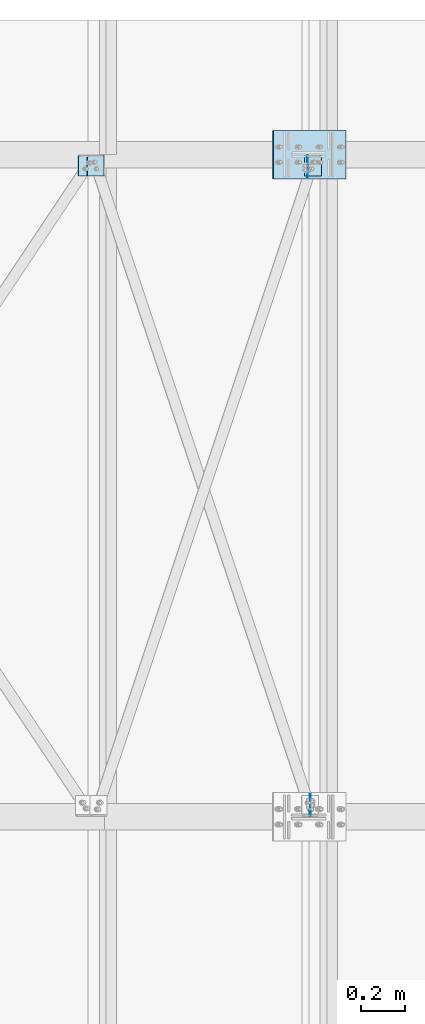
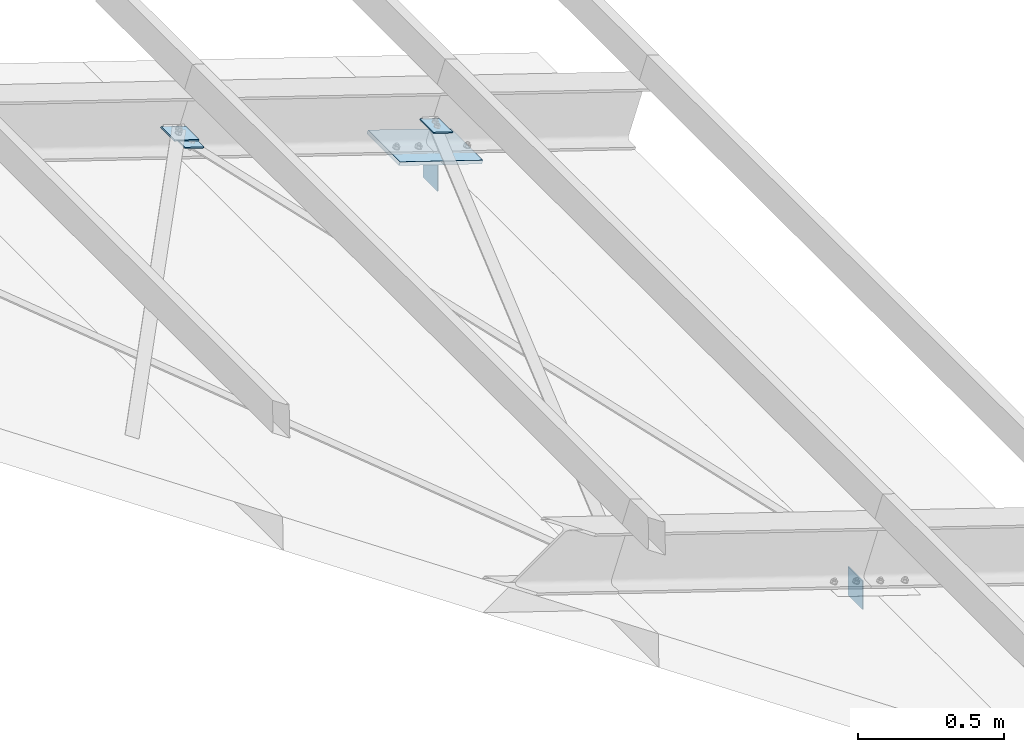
# One storey, part 9 of 53: 6 plates.
"""IFC4 building model written with IfcOpenShell, lengths in metres."""

from ifc_helpers import new_model, si_unit, frame, origin_with_axes, place, context, project, spatial, polyline, outline, extrude, type_object, element, save


model = new_model("IFC4")

# Units and contexts
model_context = context("Model", 3, precision=1e-05, world=origin_with_axes())
ifc_project = project(units=[si_unit("LENGTHUNIT", "METRE"), si_unit("AREAUNIT", "SQUARE_METRE"), si_unit("VOLUMEUNIT", "CUBIC_METRE"), si_unit("MASSUNIT", "GRAM", prefix="KILO"), si_unit("TIMEUNIT", "SECOND"), si_unit("PLANEANGLEUNIT", "RADIAN"), si_unit("SOLIDANGLEUNIT", "STERADIAN"), si_unit("THERMODYNAMICTEMPERATUREUNIT", "DEGREE_CELSIUS")], contexts=[model_context])

# Site, building, storey
placement_1 = place(None, origin_with_axes())
site = spatial("IfcSite", under=ifc_project, at=placement_1, Name="Italia", CompositionType="ELEMENT")
building = spatial("IfcBuilding", under=site, at=placement_1, Name="Capannone", CompositionType="ELEMENT")
storey_placement = place(None, frame((0.0, 0.0, 5.550000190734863), z_axis=(0.0, 0.0, 1.0), x_axis=(1.0, 0.0, 0.0)))
storey = spatial("IfcBuildingStorey", under=building, at=storey_placement, Name="Storey 1", CompositionType="ELEMENT", Elevation=5.550000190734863)

# Plates
plate_type_1 = type_object("IfcPlateType", Name="Collegamento -1058_-1088", PredefinedType="SHEET")
placement_2 = place(placement_1, origin_with_axes())
plate_1_placement = place(placement_2, origin_with_axes())
element("IfcPlate", 1, at=plate_1_placement, inside=storey, type_object=plate_type_1, Name="Collegamento -1058_-1088", context=model_context, shape_type="SweptSolid", body=[
    extrude(outline(polyline([(0.0, 0.0), (0.0940008, 0.0), (0.0940027, -0.102003), (2.86102e-06, -0.102004), (0.0, 0.0)])), frame((12.9546, 14.9029, 5.99085), z_axis=(0.312391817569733, 0.0, 0.949953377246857), x_axis=(0.0, 1.0, 0.0)), (0.0, 0.0, 1.0), 0.00500051),
])
plate_type_2 = type_object("IfcPlateType", Name="Collegamento -1058_0110", PredefinedType="SHEET")
plate_2_placement = place(placement_2, origin_with_axes())
element("IfcPlate", 2, at=plate_2_placement, inside=storey, type_object=plate_type_2, Name="Collegamento -1058_0110", context=model_context, shape_type="SweptSolid", body=[
    extrude(outline(polyline([(0.0, 0.0), (-0.0939989, -9.53674e-07), (-0.0939999, -0.0800009), (9.53674e-07, -0.0800028), (0.0, 0.0)])), frame((12.9974, 14.9029, 5.95048), z_axis=(-0.31184709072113, 0.0, -0.950132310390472), x_axis=(0.0, -1.0, 0.0)), (0.0, 0.0, 1.0), 0.00500007),
])
plate_type_3 = type_object("IfcPlateType", Name="Collegamenti 0102_0002 0104_0004 0106_0006 0108_0008 0110_0010 0112_0012", PredefinedType="SHEET")
plate_3_placement = place(placement_2, origin_with_axes())
element("IfcPlate", 3, at=plate_3_placement, inside=storey, type_object=plate_type_3, Name="Collegamenti 0102_0002 0104_0004 0106_0006 0108_0008 0110_0010 0112_0012", context=model_context, shape_type="SweptSolid", body=[
    extrude(outline(polyline([(0.0, 0.0), (-0.219999, 0.0), (-0.219999, 0.34504), (0.0, 0.34504), (0.0, 0.0)])), frame((14.1639, 15.11, 5.48036), z_axis=(0.3121717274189, 0.0, 0.950025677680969), x_axis=(0.0, 1.0, 0.0)), (0.0, 0.0, 1.0), 0.0149999),
])
plate_type_4 = type_object("IfcPlateType", Name="Collegamento 0110_0012", PredefinedType="SHEET")
plate_4_placement = place(placement_2, origin_with_axes())
element("IfcPlate", 4, at=plate_4_placement, inside=storey, type_object=plate_type_4, Name="Collegamento 0110_0012", context=model_context, shape_type="SweptSolid", body=[
    extrude(outline(polyline([(0.0, 0.0), (0.1, 4.76837e-07), (0.1, -0.119999), (0.0, -0.12), (0.0, 0.0)])), frame((14.008, 12.1035, 5.54188), z_axis=(-1.0, 0.0, 0.0), x_axis=(0.0, -1.0, 0.0)), (0.0, 0.0, 1.0), 0.00399971),
])
plate_type_5 = type_object("IfcPlateType", Name="Collegamento 0112_-1056", PredefinedType="SHEET")
plate_5_placement = place(placement_2, origin_with_axes())
element("IfcPlate", 5, at=plate_5_placement, inside=storey, type_object=plate_type_5, Name="Collegamento 0112_-1056", context=model_context, shape_type="SweptSolid", body=[
    extrude(outline(polyline([(0.0, 0.0), (-0.0940008, 0.0), (-0.0939999, -0.0799999), (-9.53674e-07, -0.0800009), (0.0, 0.0)])), frame((13.9811, 14.9025, 5.66937), z_axis=(-0.312304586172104, 0.0, -0.949982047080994), x_axis=(0.0, -1.0, 0.0)), (0.0, 0.0, 1.0), 0.00499885),
])
plate_type_6 = type_object("IfcPlateType", Name="Collegamento 0112_0010", PredefinedType="SHEET")
plate_6_placement = place(placement_2, origin_with_axes())
element("IfcPlate", 6, at=plate_6_placement, inside=storey, type_object=plate_type_6, Name="Collegamento 0112_0010", context=model_context, shape_type="SweptSolid", body=[
    extrude(outline(polyline([(0.0, 0.0), (0.1, 4.76837e-07), (0.1, -0.119999), (0.0, -0.119999), (0.0, 0.0)])), frame((13.992, 14.8965, 5.54188), z_axis=(1.0, 0.0, 0.0), x_axis=(0.0, 1.0, 0.0)), (0.0, 0.0, 1.0), 0.00399971),
])

save(model, "model.ifc")
